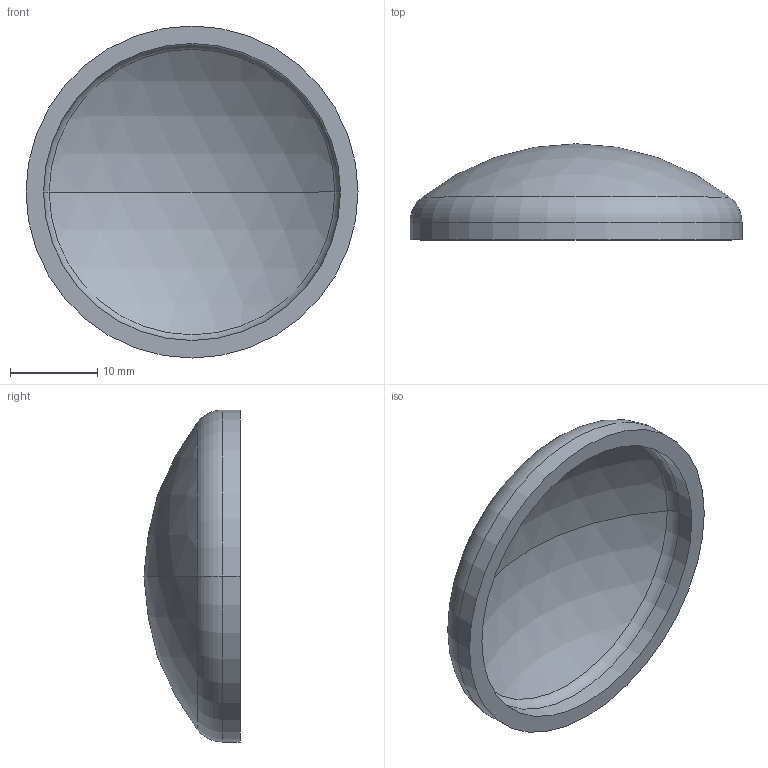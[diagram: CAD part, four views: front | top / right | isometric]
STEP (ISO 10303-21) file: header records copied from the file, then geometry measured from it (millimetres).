
FILE_DESCRIPTION (( 'STEP AP203' ), '1' );
FILE_NAME ('3D_R365_38x2_173373190.STEP', '2024-07-16T07:03:39', ( '' ), ( '' ), 'SwSTEP 2.0', 'SolidWorks 2024', '' );
FILE_SCHEMA (( 'CONFIG_CONTROL_DESIGN' ));
Length unit declared in the file: millimetre
Products named in the file (1): 3D_R365_38x2_173373190
Bounding box: 38 x 11 x 38 mm (x, y, z)
Volume: 3023 mm3; surface area: 3257.5 mm2
Topology: 1 solids, 1 shells, 13 faces, 24 edges, 14 vertices
Faces by surface type: sphere 4, torus 4, cylinder 4, plane 1
Entity records: 407 total; most frequent: DIRECTION 72, CARTESIAN_POINT 52, ORIENTED_EDGE 48, AXIS2_PLACEMENT_3D 34, EDGE_CURVE 24, CIRCLE 20, VERTEX_POINT 14, EDGE_LOOP 14
